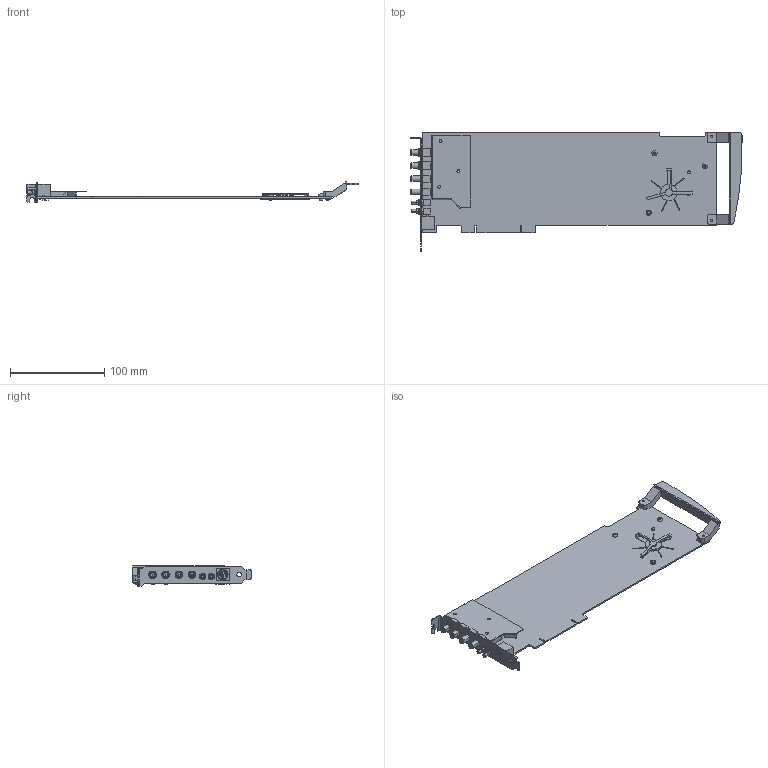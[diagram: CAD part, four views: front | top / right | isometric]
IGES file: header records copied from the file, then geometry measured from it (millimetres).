
Start section:  PTC IGES file: cu_pci-5640r.igs
Global section: file name: cu_pci-5640r.igs; native system: Pro/ENGINEER by Parametric Technology Corporation; preprocessor: 2006510; author: jjorden; organization: Unknown; date: 20100804.105829; units: inch
Bounding box: 352.49 x 126.21 x 22.07 mm (x, y, z)
Surface area: 88977.3 mm2 (no closed solid volume)
Topology: 0 solids, 0 shells, 1114 faces, 5566 edges, 5558 vertices
Faces by surface type: bspline 675, revolution 439
